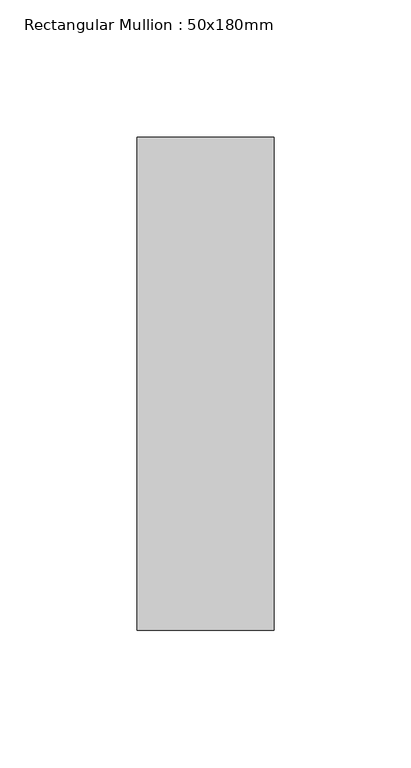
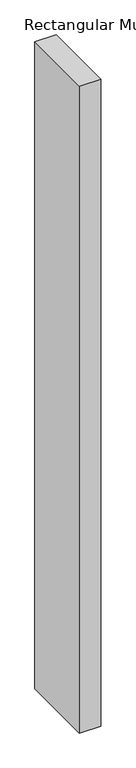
"""IFC4 building model written with IfcOpenShell, lengths in millimetres: member geometry, Rectangular Mullion : 50x180mm."""

from ifc_helpers import new_model, si_unit, frame, origin, place, context, project, spatial, polyline, outline, extrude, source, transform, mapped, element, save


def rectangular_mullion_50x180mm_95299f7d(model_context):
    return source(origin(), model_context, "Body", "SweptSolid", [
        extrude(outline(polyline([(0.0, 90.0), (0.0, -90.0), (-50.0, -90.0), (-50.0, 90.0), (0.0, 90.0)])), frame((0.0, 0.0, -1600.0), z_axis=(0.0, 0.0, 1.0), x_axis=(1.0, 0.0, 0.0)), (0.0, 0.0, 1.0), 1600.0),
    ])


if __name__ == "__main__":
    model = new_model("IFC4")
    model_context = context("Model", 3, world=origin())
    ifc_project = project(units=[si_unit("LENGTHUNIT", "METRE", prefix="MILLI")], contexts=[model_context])
    site = spatial("IfcSite", under=ifc_project)
    building = spatial("IfcBuilding", under=site)
    placement = place(None, origin())
    rectangular_mullion_50x180mm_shape = rectangular_mullion_50x180mm_95299f7d(model_context)
    element("IfcMember", 1, ObjectType="Rectangular Mullion : 50x180mm", at=placement, inside=building, context=model_context, shape_type="MappedRepresentation", body=[
        mapped(rectangular_mullion_50x180mm_shape, transform((0.0, 0.0, 0.0), x_axis=(1.0, 0.0, 0.0), y_axis=(0.0, 1.0, 0.0), z_axis=(0.0, 0.0, 1.0))),
    ])
    save(model, "model.ifc")
